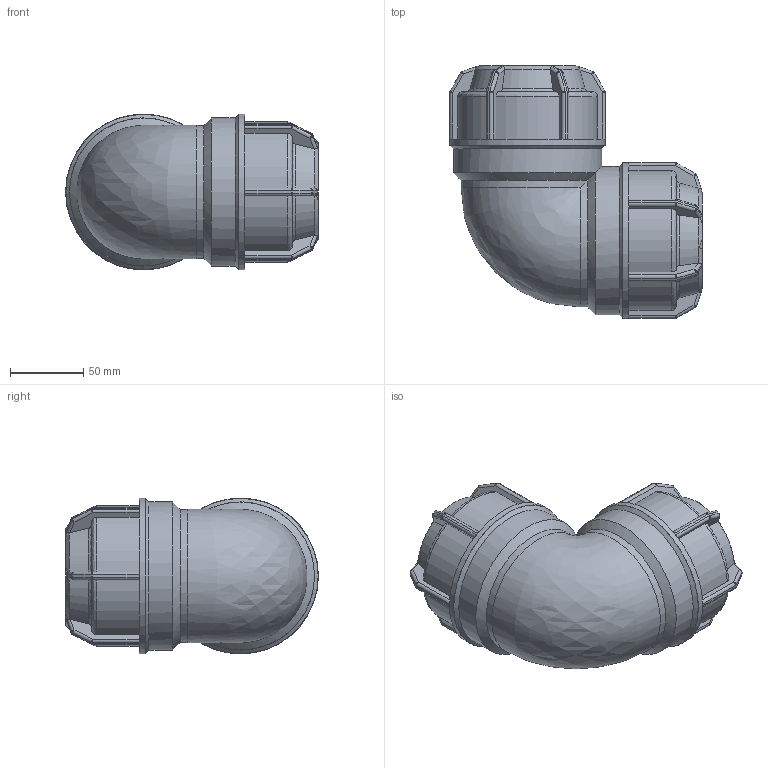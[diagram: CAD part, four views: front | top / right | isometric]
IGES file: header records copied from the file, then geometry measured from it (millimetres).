
Global section: file name: 140500063.ipt; native system: Autodesk Inventor 2015; preprocessor: unknown; author: KIM; date: 20180409.131044; units: millimetre
Bounding box: 172 x 172 x 106 mm (x, y, z)
Volume: 855793.7 mm3; surface area: 125764.5 mm2
Topology: 1 solids, 1 shells, 406 faces, 978 edges, 568 vertices
Faces by surface type: plane 192, cylinder 114, sphere 48, revolution 35, cone 16, bspline 1
Full cylindrical faces by diameter (mm): 100.8 x2, 106 x2
